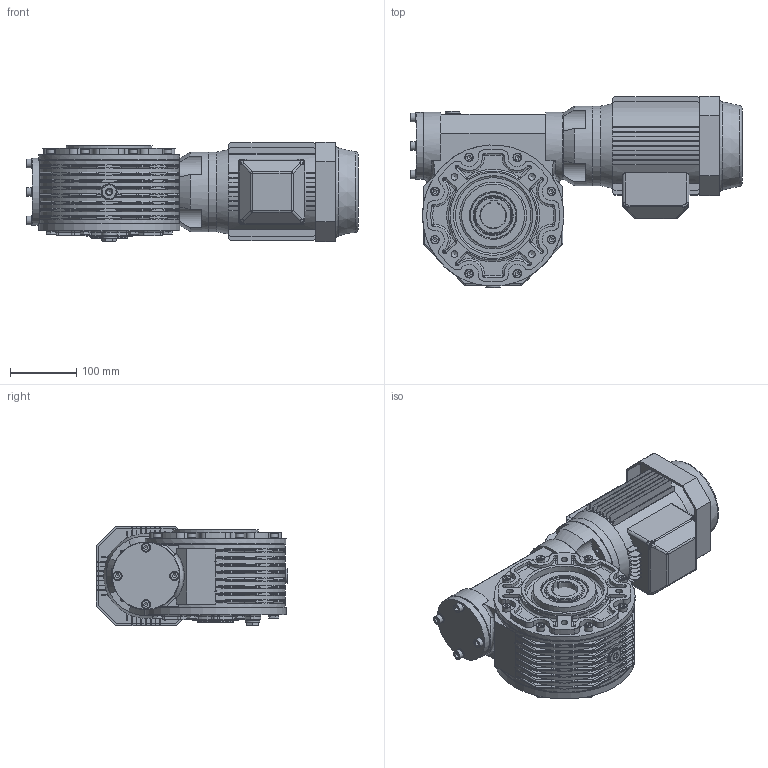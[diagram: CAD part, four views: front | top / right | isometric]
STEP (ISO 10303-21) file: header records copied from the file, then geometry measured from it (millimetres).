
FILE_DESCRIPTION((''),'2;1');
FILE_NAME('Y:\Archivi Inventor\Prog_01\GRAND_50\complessivi\Figurini\MRV50 sito\80\mrv50_fp2_80_b14.stp','2013-02-06T15:10:00',('tech3'),(''),'Autodesk Inventor 2013','Autodesk Inventor 2013','');
FILE_SCHEMA(('AUTOMOTIVE_DESIGN { 1 0 10303 214 1 1 1 1 }'));
Length unit declared in the file: millimetre
Products named in the file (20): mrv50_80_b14; mrv50_fig; Figurino_carcassa_MRV50; 0105028; 0105029; figurino_corona_MRV50; Guarnizione 3_8 GAS; Tappo 3_8 GAS_esagn_incsst; figurino_0105009; ISO 4017 M8 x 20; 55_70_8; fig_0105002; Tappo3_8 GAS; ISO 4762 M8 x 16; fig_0105004; UNI 6592 8.4 x 14; UNI 5931  M 8 x  25; 0105006; DIN EN ISO 4762 M8 x 20; motori B14 80
Assembly tree (48 placements, depth 3):
  mrv50_80_b14
    mrv50_fig
      Figurino_carcassa_MRV50
      0105028  x2
      0105029  x2
      figurino_corona_MRV50
      Guarnizione 3_8 GAS  x3
      Tappo 3_8 GAS_esagn_incsst  x2
      figurino_0105009
      ISO 4017 M8 x 20  x8
      55_70_8  x2
      fig_0105002
      Tappo3_8 GAS
      ISO 4762 M8 x 16  x8
      fig_0105004
      UNI 6592 8.4 x 14  x4
      UNI 5931  M 8 x  25  x4
    0105006
    DIN EN ISO 4762 M8 x 20  x4
    motori B14 80
Bounding box: 500.8 x 289.06 x 150.41 mm (x, y, z)
Volume: 9033913 mm3; surface area: 969879.9 mm2
Topology: 59 solids, 61 shells, 1993 faces, 4842 edges, 2944 vertices
Faces by surface type: plane 793, cylinder 632, cone 192, torus 174, bspline 152, sphere 50
Full cylindrical faces by diameter (mm): 2 x2, 4.917 x4, 6.647 x24, 7 x4, 8 x26, 8.4 x4, 8.5 x48, 10.106 x4, 11.63 x8, 13 x20, 13.046 x1, 14 x8, 14.95 x3, 16.3 x3, 16.5 x2, 19 x1, 22 x6, 24 x2, 55 x1, 60 x1, 66.4 x2, 69 x2, 70 x5, 72 x4, 73 x2, 75 x1, 80 x1, 95 x1, 99.5 x2, 101 x1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
Entity records: 54074 total; most frequent: CARTESIAN_POINT 17490, DIRECTION 7644, ORIENTED_EDGE 6850, EDGE_CURVE 3425, AXIS2_PLACEMENT_3D 3050, VERTEX_POINT 2222, EDGE_LOOP 1959, CIRCLE 1559
